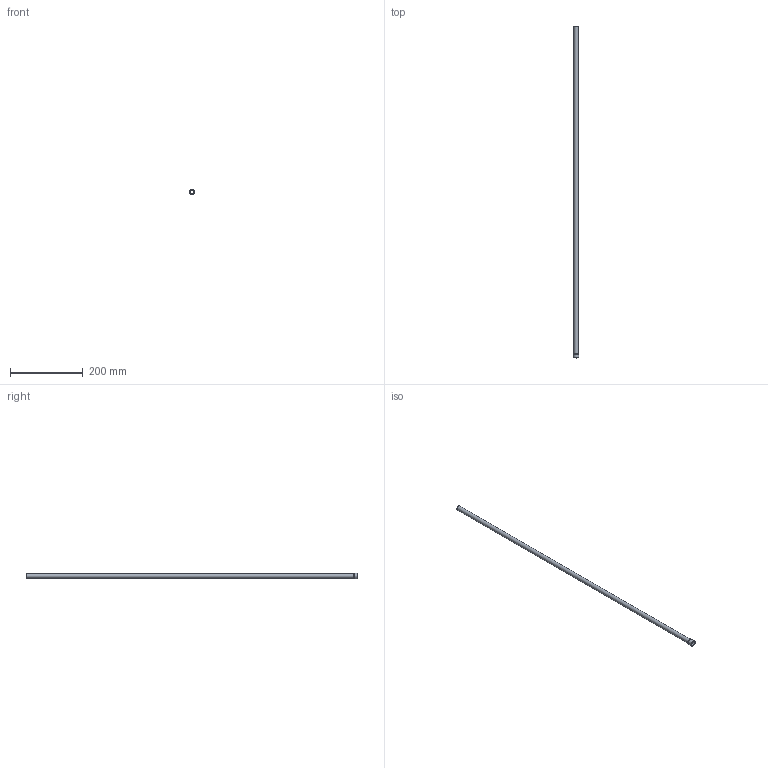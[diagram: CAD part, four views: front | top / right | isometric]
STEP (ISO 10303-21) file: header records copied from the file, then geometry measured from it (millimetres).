
FILE_DESCRIPTION(/* description */ (''),/* implementation_level */ '2;1');
FILE_NAME(/* name */ 'C:/Users/drich/Desktop/JHF500T-36 v1.step',/* time_stamp */ '2020-01-02T20:07:41-06:00',/* author */ (''),/* organization */ (''),/* preprocessor_version */ 'ST-DEVELOPER v18',/* originating_system */ 'Autodesk Translation Framework v8.12.0.6',/* authorisation */ '');
FILE_SCHEMA (('AUTOMOTIVE_DESIGN { 1 0 10303 214 3 1 1 }'));
Length unit declared in the file: inch
Products named in the file (1): JHF500T-36
Bounding box: 15.93 x 914.4 x 15.93 mm (x, y, z)
Volume: 25422.9 mm3; surface area: 69190.8 mm2
Topology: 1 solids, 1 shells, 10 faces, 24 edges, 18 vertices
Faces by surface type: cylinder 4, plane 4, cone 1, torus 1
Full cylindrical faces by diameter (mm): 11.278 x1, 12.7 x1, 15.763 x1, 15.926 x1
Entity records: 354 total; most frequent: DIRECTION 65, CARTESIAN_POINT 53, ORIENTED_EDGE 48, AXIS2_PLACEMENT_3D 30, EDGE_CURVE 24, CIRCLE 19, VERTEX_POINT 18, EDGE_LOOP 14
